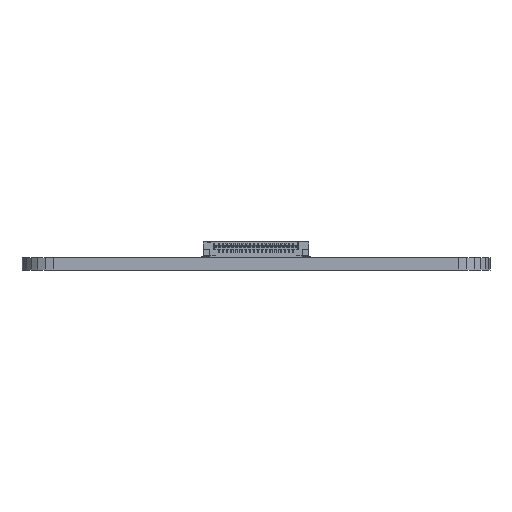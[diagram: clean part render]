
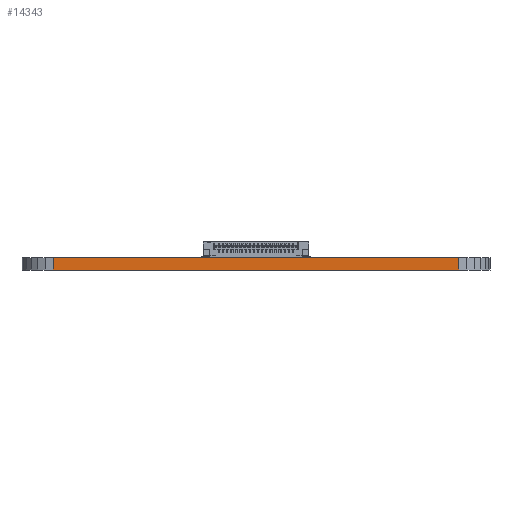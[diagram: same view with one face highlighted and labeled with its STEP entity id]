
A CAD part, front view. The second image highlights one B-rep face of the part: STEP entity #14343.
In plain terms, the highlighted planar face has unit normal (0, -1, 0).
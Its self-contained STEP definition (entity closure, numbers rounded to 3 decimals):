
#519 = ORIENTED_EDGE ( 'NONE', *, *, #10181, .F. ) ;
#1041 = CARTESIAN_POINT ( 'NONE',  ( -82.191, -36.557, 60.746 ) ) ;
#1986 = VERTEX_POINT ( 'NONE', #9254 ) ;
#2873 = CARTESIAN_POINT ( 'NONE',  ( -134.191, -36.557, 60.746 ) ) ;
#3332 = LINE ( 'NONE', #2873, #28380 ) ;
#5187 = FACE_OUTER_BOUND ( 'NONE', #18323, .T. ) ;
#7966 = EDGE_CURVE ( 'NONE', #1986, #10132, #35139, .T. ) ;
#9254 = CARTESIAN_POINT ( 'NONE',  ( -134.191, -36.557, 60.746 ) ) ;
#10132 = VERTEX_POINT ( 'NONE', #21588 ) ;
#10181 = EDGE_CURVE ( 'NONE', #1986, #16494, #3332, .T. ) ;
#10806 = LINE ( 'NONE', #40052, #34376 ) ;
#10868 = DIRECTION ( 'NONE',  ( 0., 0., 1. ) ) ;
#10902 = DIRECTION ( 'NONE',  ( 1., 0., 0. ) ) ;
#13847 = EDGE_CURVE ( 'NONE', #16494, #33390, #10806, .T. ) ;
#14033 = ORIENTED_EDGE ( 'NONE', *, *, #7966, .T. ) ;
#14343 = ADVANCED_FACE ( 'NONE', ( #5187 ), #27078, .T. ) ;
#16494 = VERTEX_POINT ( 'NONE', #31350 ) ;
#17326 = DIRECTION ( 'NONE',  ( 0., -1., 0. ) ) ;
#18323 = EDGE_LOOP ( 'NONE', ( #31309, #36279, #519, #14033 ) ) ;
#21153 = CARTESIAN_POINT ( 'NONE',  ( -82.191, -36.557, 62.346 ) ) ;
#21588 = CARTESIAN_POINT ( 'NONE',  ( -82.191, -36.557, 60.746 ) ) ;
#22400 = AXIS2_PLACEMENT_3D ( 'NONE', #29901, #17326, #30209 ) ;
#27078 = PLANE ( 'NONE',  #22400 ) ;
#28380 = VECTOR ( 'NONE', #32437, 1000. ) ;
#29901 = CARTESIAN_POINT ( 'NONE',  ( -134.191, -36.557, 60.746 ) ) ;
#30209 = DIRECTION ( 'NONE',  ( 0., 0., -1. ) ) ;
#31309 = ORIENTED_EDGE ( 'NONE', *, *, #40930, .T. ) ;
#31350 = CARTESIAN_POINT ( 'NONE',  ( -134.191, -36.557, 62.346 ) ) ;
#32437 = DIRECTION ( 'NONE',  ( 0., 0., 1. ) ) ;
#33250 = DIRECTION ( 'NONE',  ( 1., 0., 0. ) ) ;
#33390 = VERTEX_POINT ( 'NONE', #21153 ) ;
#34376 = VECTOR ( 'NONE', #33250, 1000. ) ;
#35139 = LINE ( 'NONE', #37000, #38737 ) ;
#36279 = ORIENTED_EDGE ( 'NONE', *, *, #13847, .F. ) ;
#37000 = CARTESIAN_POINT ( 'NONE',  ( -134.191, -36.557, 60.746 ) ) ;
#38005 = LINE ( 'NONE', #1041, #39557 ) ;
#38737 = VECTOR ( 'NONE', #10902, 1000. ) ;
#39557 = VECTOR ( 'NONE', #10868, 1000. ) ;
#40052 = CARTESIAN_POINT ( 'NONE',  ( -134.191, -36.557, 62.346 ) ) ;
#40930 = EDGE_CURVE ( 'NONE', #10132, #33390, #38005, .T. ) ;
